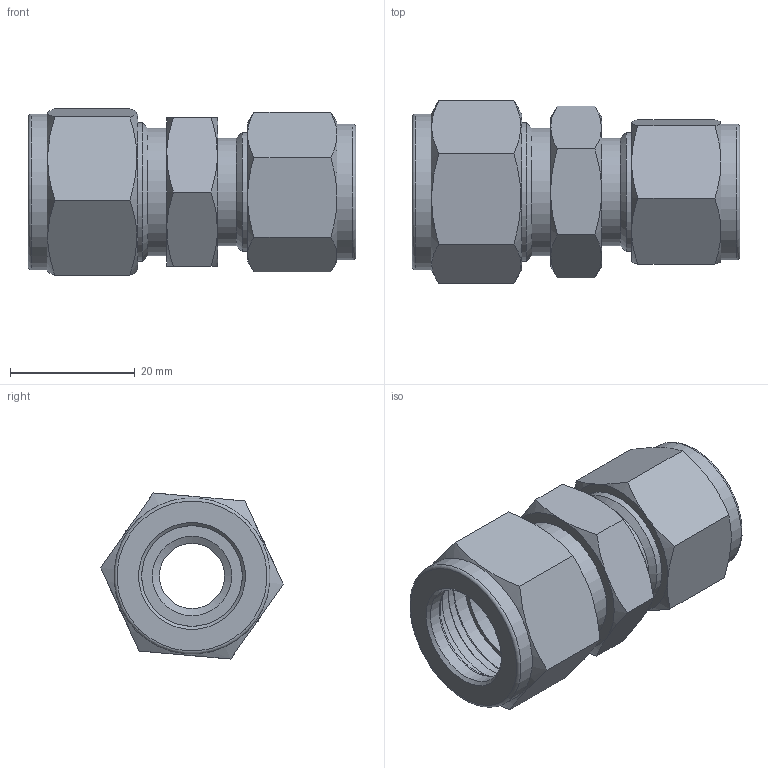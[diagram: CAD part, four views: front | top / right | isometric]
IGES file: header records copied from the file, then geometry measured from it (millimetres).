
Global section: file name: No Iges File Name specified; native system: Autodesk Inventor 2012; preprocessor: AutoDesk Inventor Iges Exporter R2012; author: 硅己绕,,1; organization: 1; date: 20150422.171028; units: millimetre
Bounding box: 52.4 x 29.22 x 26.59 mm (x, y, z)
Volume: 12735.4 mm3; surface area: 10235.7 mm2
Topology: 3 solids, 3 shells, 90 faces, 191 edges, 117 vertices
Faces by surface type: plane 34, revolution 24, cone 20, cylinder 8, torus 4
Full cylindrical faces by diameter (mm): 17.2 x1, 17.3 x1, 19.05 x1, 20.4 x2, 21.8 x1, 22.22 x1, 25 x1
